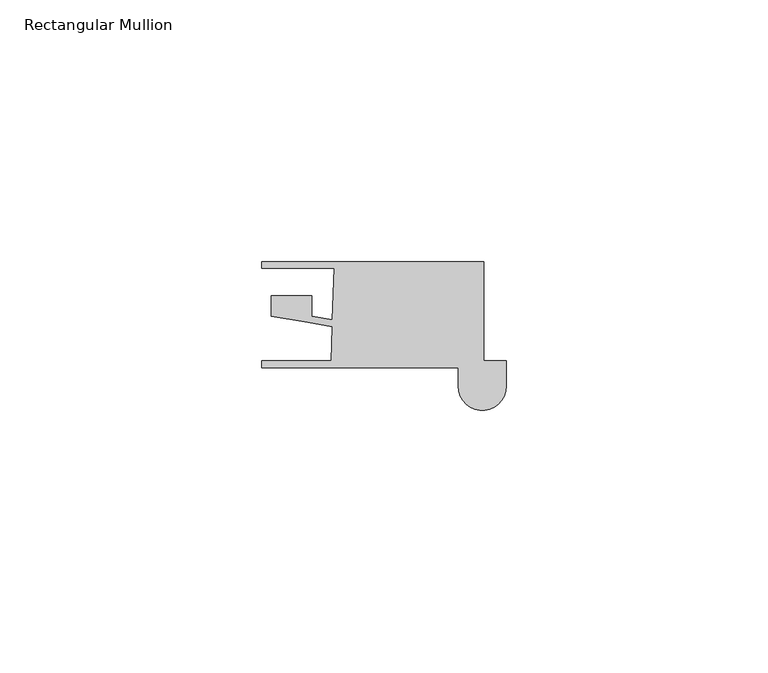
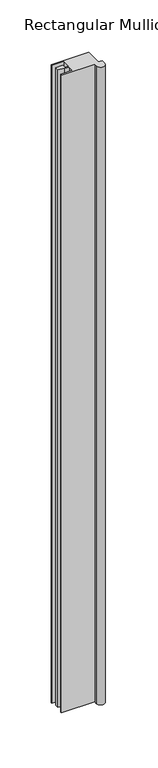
"""IFC4 building model written with IfcOpenShell, lengths in millimetres: member geometry, Rectangular Mullion : QuickPanel-Absolute_Multi-Angle-Outside-Corner-Trim-Left."""

from ifc_helpers import new_model, si_unit, point, frame, frame_2d, origin, place, context, project, spatial, polyline, circle_curve, trimmed, segment, composite_curve, outline, extrude, source, transform, mapped, element, save


def rectangular_mullion_71dfe0ef(model_context):
    return source(origin(), model_context, "Body", "SweptSolid", [
        extrude(outline(composite_curve([segment(polyline([(-46.7093657, -8.095605), (-46.7093657, -6.6935423), (-33.468453, -6.6935423), (-33.2416678, -0.1992641), (-38.4919487, 0.7008023), (-44.9272813, 1.8040245), (-44.9272813, 5.6493034), (-37.1825082, 5.6493034), (-37.1825082, 1.7648465), (-33.1969393, 1.0815922), (-32.8530122, 10.9303752), (-46.7093657, 10.9303752), (-46.7093657, 12.1803727), (-4.2600515, 12.1803727), (-4.2600515, -6.6995181), (0.0, -6.6995181), (0.0, -11.6334034)]), True, "CONTINUOUS"), segment(trimmed(circle_curve(frame_2d((-4.572, -11.6334034)), 4.572), [point((0.0, -11.6334034))], [point((-9.144, -11.6334034))], False, "CARTESIAN"), True, "CONTINUOUS"), segment(polyline([(-9.144, -11.6334034), (-9.144, -8.095605), (-46.7093657, -8.095605)]), True, "CONTINUOUS")], self_intersect=False)), frame((0.0, 0.0, -762.0), z_axis=(0.0, 0.0, 1.0), x_axis=(1.0, 0.0, 0.0)), (0.0, 0.0, 1.0), 762.0),
    ])


if __name__ == "__main__":
    model = new_model("IFC4")
    model_context = context("Model", 3, world=origin())
    ifc_project = project(units=[si_unit("LENGTHUNIT", "METRE", prefix="MILLI")], contexts=[model_context])
    site = spatial("IfcSite", under=ifc_project)
    building = spatial("IfcBuilding", under=site)
    placement = place(None, origin())
    rectangular_mullion_shape = rectangular_mullion_71dfe0ef(model_context)
    element("IfcMember", 1, ObjectType="Rectangular Mullion : QuickPanel-Absolute_Multi-Angle-Outside-Corner-Trim-Left", at=placement, inside=building, context=model_context, shape_type="MappedRepresentation", body=[
        mapped(rectangular_mullion_shape, transform((0.0, 0.0, 0.0), x_axis=(1.0, 0.0, 0.0), y_axis=(0.0, 1.0, 0.0), z_axis=(0.0, 0.0, 1.0))),
    ])
    save(model, "model.ifc")
